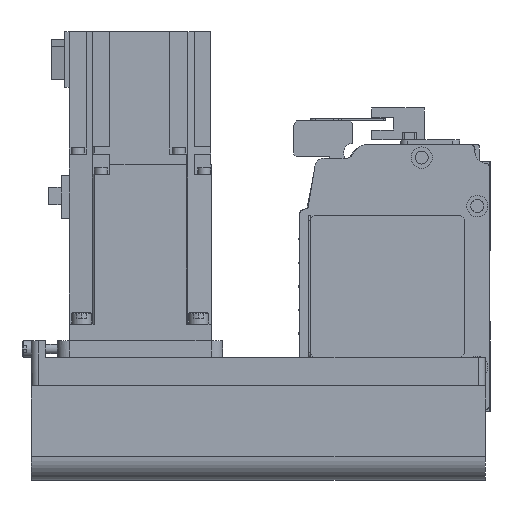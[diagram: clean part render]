
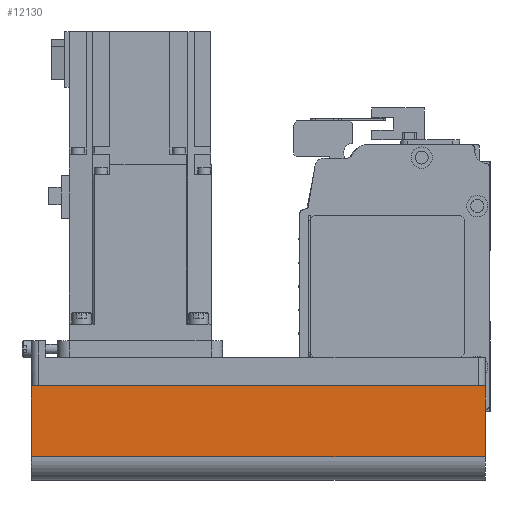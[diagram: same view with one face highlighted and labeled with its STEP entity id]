
A CAD part, left-side view. The second image highlights one B-rep face of the part: STEP entity #12130.
In plain terms, the highlighted planar face has unit normal (-1, 0, 0) as drawn and (0, -1, 0) by its records, which use the part's own axes.
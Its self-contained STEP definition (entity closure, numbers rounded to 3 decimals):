
#2189=ORIENTED_EDGE('',*,*,#4929,.F.);
#2190=ORIENTED_EDGE('',*,*,#4895,.F.);
#2191=ORIENTED_EDGE('',*,*,#4918,.T.);
#2192=ORIENTED_EDGE('',*,*,#4962,.T.);
#4895=EDGE_CURVE('',#6431,#6432,#7653,.T.);
#4918=EDGE_CURVE('',#6431,#6450,#7672,.T.);
#4929=EDGE_CURVE('',#6432,#6458,#7681,.T.);
#4962=EDGE_CURVE('',#6450,#6458,#7694,.T.);
#6431=VERTEX_POINT('',#18859);
#6432=VERTEX_POINT('',#18861);
#6450=VERTEX_POINT('',#18904);
#6458=VERTEX_POINT('',#18928);
#7653=LINE('',#18860,#8881);
#7672=LINE('',#18905,#8900);
#7681=LINE('',#18927,#8909);
#7694=LINE('',#18985,#8922);
#8881=VECTOR('',#15170,1000.);
#8900=VECTOR('',#15203,1000.);
#8909=VECTOR('',#15224,1000.);
#8922=VECTOR('',#15309,1000.);
#9978=EDGE_LOOP('',(#2189,#2190,#2191,#2192));
#10860=FACE_BOUND('',#9978,.T.);
#11573=PLANE('',#13071);
#12130=ADVANCED_FACE('',(#10860),#11573,.T.);
#13071=AXIS2_PLACEMENT_3D('',#18986,#15310,#15311);
#15170=DIRECTION('',(1.,0.,0.));
#15203=DIRECTION('',(0.,0.,-1.));
#15224=DIRECTION('',(0.,0.,-1.));
#15309=DIRECTION('',(1.,0.,0.));
#15310=DIRECTION('',(0.,-1.,0.));
#15311=DIRECTION('',(0.,0.,-1.));
#18859=CARTESIAN_POINT('',(-192.,-40.,-12.1));
#18860=CARTESIAN_POINT('',(-192.,-40.,-12.1));
#18861=CARTESIAN_POINT('',(0.,-40.,-12.1));
#18904=CARTESIAN_POINT('',(-192.,-40.,-42.));
#18905=CARTESIAN_POINT('',(-192.,-40.,-12.1));
#18927=CARTESIAN_POINT('',(0.,-40.,-12.1));
#18928=CARTESIAN_POINT('',(0.,-40.,-42.));
#18985=CARTESIAN_POINT('',(-192.,-40.,-42.));
#18986=CARTESIAN_POINT('',(-192.,-40.,-12.1));
